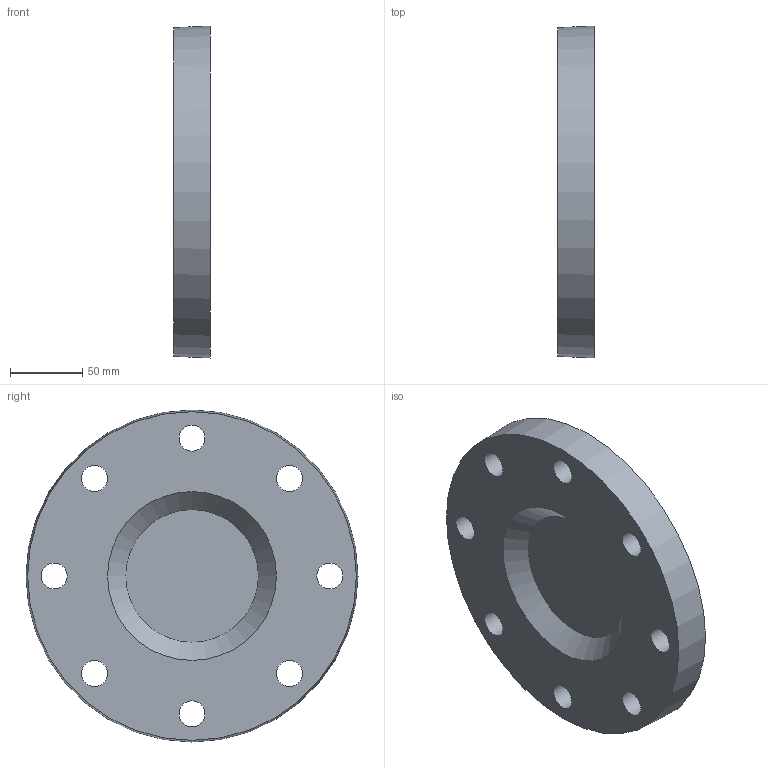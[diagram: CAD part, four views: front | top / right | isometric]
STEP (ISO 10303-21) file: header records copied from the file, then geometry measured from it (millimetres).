
FILE_DESCRIPTION(/* description */ ('PLASSON BLANK FLANGE PVC 125'),/* implementation_level */ '2;1');
FILE_NAME(/* name */ 'C:\Dropbox\KIMPROJECTS-Inventor\99-16-3568-Processing\PVC Catalog 2017\059100\059100125.ipt.stp',/* time_stamp */ '2017-12-07T16:06:52+02:00',/* author */ ('KIM'),/* organization */ (''),/* preprocessor_version */ 'ST-DEVELOPER v15.6',/* originating_system */ 'Autodesk Inventor 2015',/* authorisation */ '');
FILE_SCHEMA (('AUTOMOTIVE_DESIGN { 1 0 10303 214 3 1 1 }'));
Length unit declared in the file: millimetre
Products named in the file (1): 059100125
Bounding box: 25 x 230 x 230 mm (x, y, z)
Volume: 869235 mm3; surface area: 110046.8 mm2
Topology: 1 solids, 1 shells, 25 faces, 48 edges, 32 vertices
Faces by surface type: cylinder 14, plane 9, cone 2
Full cylindrical faces by diameter (mm): 18 x8, 92 x1, 94.3 x1, 96.6 x1, 98.9 x1, 101.2 x1, 103.5 x1
Entity records: 630 total; most frequent: DIRECTION 116, CARTESIAN_POINT 90, EDGE_LOOP 64, ORIENTED_EDGE 64, AXIS2_PLACEMENT_3D 58, FACE_BOUND 39, CIRCLE 32, VERTEX_POINT 32
